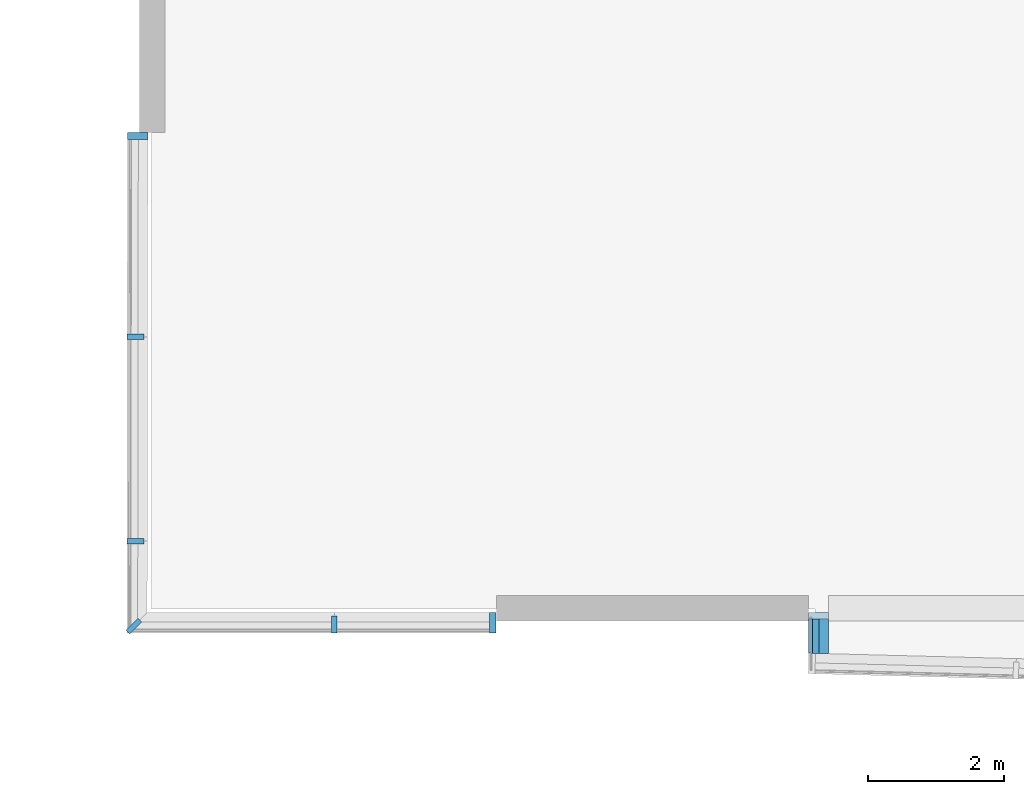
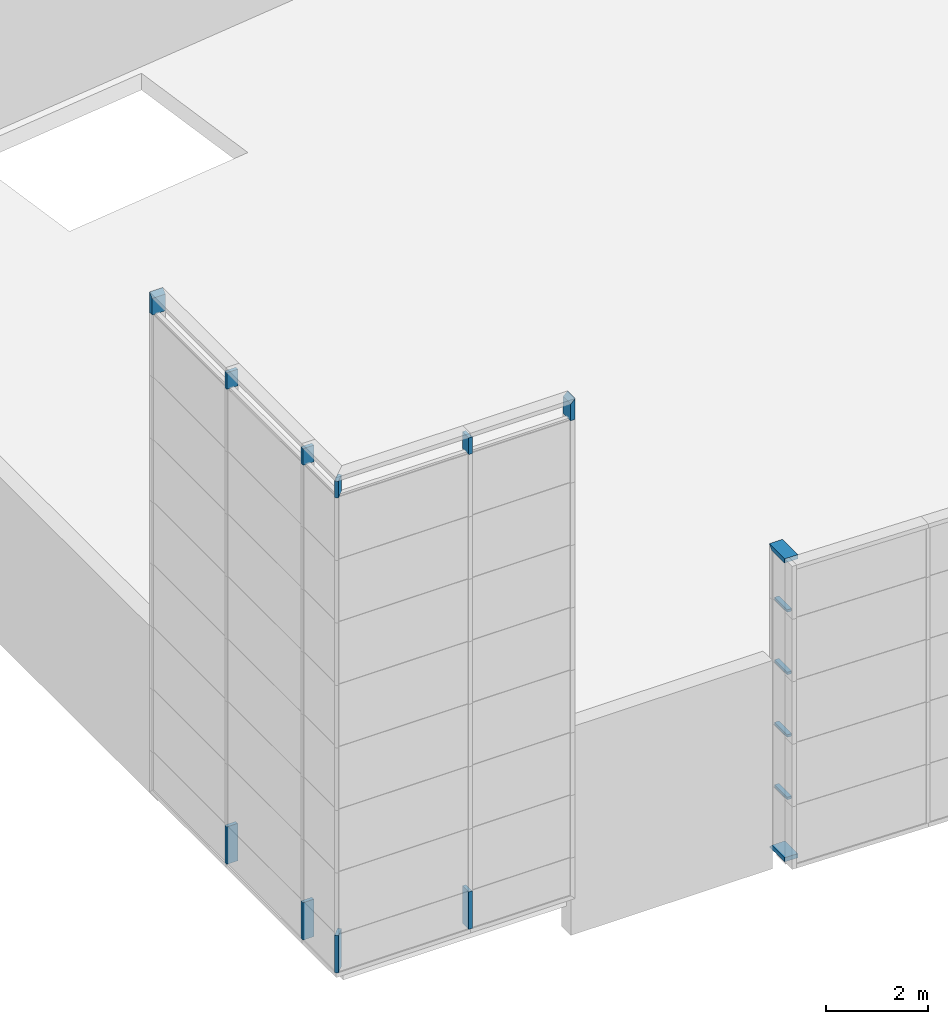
# One storey, part 12 of 27: 16 members, 2 elements without a shape of their own.
"""IFC2X3 building model written with IfcOpenShell, lengths in metres."""

from ifc_helpers import new_model, entity, si_unit, converted_unit, money_unit, direction, frame, origin_with_axes, place, context, subcontext, project, spatial, polyline, outline, extrude, clip, halfspace, material, type_object, element, aggregate, save


model = new_model("IFC2X3")

# Units and contexts
model_context = context("Model", 3, precision=1e-05, world=origin_with_axes(), true_north=direction((0.0, 1.0)))
body_context = subcontext(model_context, "Body", "Model", "MODEL_VIEW")
ifc_project = project(units=[si_unit("LENGTHUNIT", "METRE"), si_unit("AREAUNIT", "SQUARE_METRE"), si_unit("VOLUMEUNIT", "CUBIC_METRE"), converted_unit("PLANEANGLEUNIT", "DEGREE", entity("IfcPlaneAngleMeasure", 0.0174532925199), si_unit("PLANEANGLEUNIT", "RADIAN"), dimensions=[0, 0, 0, 0, 0, 0, 0]), si_unit("SOLIDANGLEUNIT", "STERADIAN"), money_unit("EUR"), converted_unit("TIMEUNIT", "Year", entity("IfcTimeMeasure", 31556926.0), si_unit("TIMEUNIT", "SECOND"), dimensions=[0, 0, 0, 0, 0, 0, 0]), si_unit("MASSUNIT", "GRAM"), si_unit("THERMODYNAMICTEMPERATUREUNIT", "DEGREE_CELSIUS"), si_unit("LUMINOUSINTENSITYUNIT", "LUMEN")], contexts=[model_context])

# Site, building, storey
site_placement = place(None, origin_with_axes())
site = spatial("IfcSite", under=ifc_project, at=site_placement, Name="Undefined", CompositionType="ELEMENT")
building_placement = place(site_placement, origin_with_axes())
building = spatial("IfcBuilding", under=site, at=building_placement, Name="Undefined", CompositionType="ELEMENT")
storey_placement = place(building_placement, frame((0.0, 0.0, 5.4), z_axis=(0.0, 0.0, 1.0), x_axis=(1.0, 0.0, 0.0)))
storey = spatial("IfcBuildingStorey", under=building, at=storey_placement, Name="R+1", CompositionType="ELEMENT", Elevation=5.4)

# Curtain wall, members
curtain_wall_type = type_object("IfcCurtainWallType", Name="Type de mur-rideau", PredefinedType="NOTDEFINED")
curtain_wall_1_placement = place(storey_placement, frame((9.49999998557, -0.66969262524, -0.55), z_axis=(0.0, 0.0, 1.0), x_axis=(1.0, 0.0, 0.0)))
curtain_wall_1 = element("IfcCurtainWall", 1, at=curtain_wall_1_placement, inside=storey, type_object=curtain_wall_type, Name="CurtainWall_01", ObjectType="CURTAIN WALL")
ifc_material = material(Name="25 % 359672764")
member_type_1 = type_object("IfcMemberType", Name="Cadre 100 x 300", PredefinedType="NOTDEFINED")
member_1_placement = place(curtain_wall_1_placement, frame((1.44304870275e-08, 0.426115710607, 0.0), z_axis=(-3.3865186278e-08, -1.0, 0.0), x_axis=(0.0, 0.0, 1.0)))
member_1 = element("IfcMember", 2, at=member_1_placement, type_object=member_type_1, material=ifc_material, Name="Frame-Bnd-802", context=body_context, shape_type="Clipping", body=[
    clip(clip(extrude(outline(polyline([(-0.25, -0.1), (0.05, -0.1), (0.05, 0.0), (-0.25, 0.0), (-0.25, -0.1)])), frame((0.0, 0.0, 0.0), z_axis=(0.0, 0.0, 1.0), x_axis=(0.0, 1.0, 0.0)), (0.0, 0.0, 1.0), 0.60865442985), halfspace(frame((0.0, 0.0, 0.0), z_axis=(-0.707106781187, 0.0, 0.707106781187), x_axis=(0.0, -1.0, 0.0)), True)), halfspace(frame((0.0, 0.0156637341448, 0.601738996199), z_axis=(0.0, -0.0260219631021, -0.999661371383), x_axis=(0.0, 0.999661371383, -0.0260219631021)), True)),
])
member_2_placement = place(curtain_wall_1_placement, frame((-1.44304870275e-08, -0.426115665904, 7.27482766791), z_axis=(3.38651859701e-08, 1.0, 0.0), x_axis=(0.0, 0.0, -1.0)))
member_2 = element("IfcMember", 3, at=member_2_placement, type_object=member_type_1, material=ifc_material, Name="Frame-Bnd-880", context=body_context, shape_type="Clipping", body=[
    clip(clip(extrude(outline(polyline([(0.25, 0.1), (-0.05, 0.1), (-0.05, 0.0), (0.25, 0.0), (0.25, 0.1)])), frame((0.0, 0.0, 0.243576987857), z_axis=(0.0, 0.0, 1.0), x_axis=(0.0, -1.0, 0.0)), (0.0, 0.0, 1.0), 0.608654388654), halfspace(frame((8.76361360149e-09, -0.00650549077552, 0.249915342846), z_axis=(3.5054454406e-08, -0.0260219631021, 0.999661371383), x_axis=(0.0, -0.999661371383, -0.0260219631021)), True)), halfspace(frame((0.426115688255, 0.0, 0.426115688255), z_axis=(-0.707106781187, 0.0, -0.707106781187), x_axis=(0.0, 1.0, 0.0)), True)),
])

curtain_wall_2_placement = place(storey_placement, frame((-0.508840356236, 0.150119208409, 0.0), z_axis=(0.0, 0.0, 1.0), x_axis=(1.0, 0.0, 0.0)))
curtain_wall_2 = element("IfcCurtainWall", 4, at=curtain_wall_2_placement, inside=storey, type_object=curtain_wall_type, Name="CurtainWall_01", ObjectType="CURTAIN WALL")
member_3_placement = place(curtain_wall_2_placement, frame((0.00884103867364, 6.65011390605, 11.5000000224), z_axis=(0.0, 0.0, 1.0), x_axis=(0.00132945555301, 0.999999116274, 0.0)))
member_3 = element("IfcMember", 5, at=member_3_placement, type_object=member_type_1, material=ifc_material, Name="Frame-Bnd-727", context=body_context, shape_type="Clipping", body=[
    clip(extrude(outline(polyline([(0.249999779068, -0.000332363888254), (-0.0499999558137, 6.64727776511e-05), (-0.050132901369, -0.0999334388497), (0.249866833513, -0.100332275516), (0.249999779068, -0.000332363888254)])), frame((0.0, 0.0, 0.0), z_axis=(0.0, 0.0, 1.0), x_axis=(0.00132945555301, -0.999999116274, 0.0)), (0.0, 0.0, 1.0), 0.500000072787), halfspace(frame((-0.250000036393, 0.0, 0.250000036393), z_axis=(0.707106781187, 0.0, -0.707106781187), x_axis=(0.0, 1.0, 0.0)), True)),
])
member_4_placement = place(curtain_wall_2_placement, frame((5.37446819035, -0.650119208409, 11.5000000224), z_axis=(-2.36412881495e-08, 0.0, 1.0), x_axis=(-1.0, 0.0, -2.36412881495e-08)))
member_4 = element("IfcMember", 6, at=member_4_placement, type_object=member_type_1, material=ifc_material, Name="Frame-Bnd-987", context=body_context, shape_type="Clipping", body=[
    clip(extrude(outline(polyline([(-0.1, 0.25), (-0.1, -0.05), (0.0, -0.05), (0.0, 0.25), (-0.1, 0.25)])), frame((0.0, 0.0, 0.0), z_axis=(0.0, 0.0, 1.0), x_axis=(-1.0, 0.0, -2.36412881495e-08)), (0.0, 0.0, 1.0), 0.500000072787), halfspace(frame((0.250000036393, 0.0, 0.250000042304), z_axis=(-0.707106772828, 0.0, -0.707106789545), x_axis=(0.0, 1.0, 0.0)), True)),
])
member_type_2 = type_object("IfcMemberType", Name="Montant 80 x 250", PredefinedType="NOTDEFINED")
member_5_placement = place(curtain_wall_2_placement, frame((0.00485267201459, 3.65011655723, 11.5000000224), z_axis=(0.0, 0.0, 1.0), x_axis=(0.00132945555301, 0.999999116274, 0.0)))
member_5 = element("IfcMember", 7, at=member_5_placement, type_object=member_type_2, material=ifc_material, Name="Frame-Mll-289", context=body_context, shape_type="SweptSolid", body=[
    extrude(outline(polyline([(0.200053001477, 0.0397340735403), (-0.0499467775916, 0.0400664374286), (-0.0500531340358, -0.0399334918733), (0.199946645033, -0.0402658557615), (0.200053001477, 0.0397340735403)])), frame((0.0, 0.0, 0.0), z_axis=(0.0, 0.0, 1.0), x_axis=(0.00132945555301, -0.999999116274, 0.0)), (0.0, 0.0, 1.0), 0.400000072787),
])
member_6_placement = place(curtain_wall_2_placement, frame((0.00086430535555, 0.650119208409, 0.0), z_axis=(0.0, 0.0, 1.0), x_axis=(0.00132945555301, 0.999999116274, 0.0)))
member_6 = element("IfcMember", 8, at=member_6_placement, type_object=member_type_2, material=ifc_material, Name="Frame-Mll-132", context=body_context, shape_type="SweptSolid", body=[
    extrude(outline(polyline([(0.200053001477, 0.0397340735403), (-0.0499467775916, 0.0400664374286), (-0.0500531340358, -0.0399334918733), (0.199946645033, -0.0402658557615), (0.200053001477, 0.0397340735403)])), frame((0.0, 0.0, 0.1), z_axis=(0.0, 0.0, 1.0), x_axis=(0.00132945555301, -0.999999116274, 0.0)), (0.0, 0.0, 1.0), 0.900000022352),
])
member_7_placement = place(curtain_wall_2_placement, frame((-0.00086430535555, -0.650119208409, 0.0), z_axis=(0.0, 0.0, 1.0), x_axis=(-0.706636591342, 0.707576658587, 0.0)))
member_7 = element("IfcMember", 9, at=member_7_placement, type_object=member_type_2, material=ifc_material, Name="Frame-Mll-361", context=body_context, shape_type="SweptSolid", body=[
    extrude(outline(polyline([(0.113249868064, 0.169630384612), (-0.063644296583, -0.00702876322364), (-0.00711336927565, -0.0636348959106), (0.169780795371, 0.113024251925), (0.113249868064, 0.169630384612)])), frame((0.0, 0.0, 0.1), z_axis=(0.0, 0.0, 1.0), x_axis=(-0.706636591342, -0.707576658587, 0.0)), (0.0, 0.0, 1.0), 0.900000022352),
])
member_8_placement = place(curtain_wall_2_placement, frame((2.99946827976, -0.650119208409, 0.0), z_axis=(0.0, 0.0, 1.0), x_axis=(-1.0, 0.0, 0.0)))
member_8 = element("IfcMember", 10, at=member_8_placement, type_object=member_type_2, material=ifc_material, Name="Frame-Mll-145", context=body_context, shape_type="SweptSolid", body=[
    extrude(outline(polyline([(-0.04, 0.2), (-0.04, -0.05), (0.04, -0.05), (0.04, 0.2), (-0.04, 0.2)])), frame((0.0, 0.0, 0.1), z_axis=(0.0, 0.0, 1.0), x_axis=(-1.0, 0.0, 0.0)), (0.0, 0.0, 1.0), 0.900000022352),
])
member_9_placement = place(curtain_wall_2_placement, frame((0.00086430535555, 0.650119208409, 11.5000000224), z_axis=(0.0, 0.0, 1.0), x_axis=(0.00132945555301, 0.999999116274, 0.0)))
member_9 = element("IfcMember", 11, at=member_9_placement, type_object=member_type_2, material=ifc_material, Name="Frame-Mll-290", context=body_context, shape_type="SweptSolid", body=[
    extrude(outline(polyline([(0.200053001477, 0.0397340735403), (-0.0499467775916, 0.0400664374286), (-0.0500531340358, -0.0399334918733), (0.199946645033, -0.0402658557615), (0.200053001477, 0.0397340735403)])), frame((0.0, 0.0, 0.0), z_axis=(0.0, 0.0, 1.0), x_axis=(0.00132945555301, -0.999999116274, 0.0)), (0.0, 0.0, 1.0), 0.400000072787),
])
member_10_placement = place(curtain_wall_2_placement, frame((2.99946827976, -0.650119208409, 11.5000000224), z_axis=(0.0, 0.0, 1.0), x_axis=(-1.0, 0.0, 0.0)))
member_10 = element("IfcMember", 12, at=member_10_placement, type_object=member_type_2, material=ifc_material, Name="Frame-Mll-320", context=body_context, shape_type="SweptSolid", body=[
    extrude(outline(polyline([(-0.04, 0.2), (-0.04, -0.05), (0.04, -0.05), (0.04, 0.2), (-0.04, 0.2)])), frame((0.0, 0.0, 0.0), z_axis=(0.0, 0.0, 1.0), x_axis=(-1.0, 0.0, 0.0)), (0.0, 0.0, 1.0), 0.400000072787),
])
member_11_placement = place(curtain_wall_2_placement, frame((-0.00086430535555, -0.650119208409, 11.5000000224), z_axis=(0.0, 0.0, 1.0), x_axis=(-0.706636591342, 0.707576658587, 0.0)))
member_11 = element("IfcMember", 13, at=member_11_placement, type_object=member_type_2, material=ifc_material, Name="Frame-Mll-361", context=body_context, shape_type="SweptSolid", body=[
    extrude(outline(polyline([(0.113249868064, 0.169630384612), (-0.063644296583, -0.00702876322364), (-0.00711336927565, -0.0636348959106), (0.169780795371, 0.113024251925), (0.113249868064, 0.169630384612)])), frame((0.0, 0.0, 0.0), z_axis=(0.0, 0.0, 1.0), x_axis=(-0.706636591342, -0.707576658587, 0.0)), (0.0, 0.0, 1.0), 0.400000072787),
])
member_12_placement = place(curtain_wall_2_placement, frame((0.00485267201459, 3.65011655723, 0.0), z_axis=(0.0, 0.0, 1.0), x_axis=(0.00132945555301, 0.999999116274, 0.0)))
member_12 = element("IfcMember", 14, at=member_12_placement, type_object=member_type_2, material=ifc_material, Name="Frame-Mll-131", context=body_context, shape_type="SweptSolid", body=[
    extrude(outline(polyline([(0.200053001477, 0.0397340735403), (-0.0499467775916, 0.0400664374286), (-0.0500531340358, -0.0399334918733), (0.199946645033, -0.0402658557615), (0.200053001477, 0.0397340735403)])), frame((0.0, 0.0, 0.1), z_axis=(0.0, 0.0, 1.0), x_axis=(0.00132945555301, -0.999999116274, 0.0)), (0.0, 0.0, 1.0), 0.900000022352),
])
aggregate(curtain_wall_2, [member_3, member_5, member_6, member_7, member_8, member_9, member_10, member_11, member_12, member_4])

# Member
member_type_3 = type_object("IfcMemberType", Name="Traverse 60 x 100", PredefinedType="NOTDEFINED")
member_13_placement = place(curtain_wall_1_placement, frame((1.44304870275e-08, 0.426115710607, 6.0), z_axis=(-3.3865186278e-08, -1.0, 0.0), x_axis=(0.0, 0.0, 1.0)))
member_13 = element("IfcMember", 15, at=member_13_placement, type_object=member_type_3, material=ifc_material, Name="Frame-Trs-571", context=body_context, shape_type="Clipping", body=[
    clip(extrude(outline(polyline([(-0.11, -0.03), (-0.01, -0.03), (-0.01, 0.03), (-0.11, 0.03), (-0.11, -0.03)])), frame((0.0, 0.0, 0.1), z_axis=(0.0, 0.0, 1.0), x_axis=(0.0, 1.0, 0.0)), (0.0, 0.0, 1.0), 0.505010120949), halfspace(frame((0.0, 0.0156637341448, 0.601738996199), z_axis=(0.0, -0.0260219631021, -0.999661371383), x_axis=(0.0, 0.999661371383, -0.0260219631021)), True)),
])

member_14_placement = place(curtain_wall_1_placement, frame((1.44304870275e-08, 0.426115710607, 4.5), z_axis=(-3.3865186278e-08, -1.0, 0.0), x_axis=(0.0, 0.0, 1.0)))
member_14 = element("IfcMember", 16, at=member_14_placement, type_object=member_type_3, material=ifc_material, Name="Frame-Trs-571", context=body_context, shape_type="Clipping", body=[
    clip(extrude(outline(polyline([(-0.11, -0.03), (-0.01, -0.03), (-0.01, 0.03), (-0.11, 0.03), (-0.11, -0.03)])), frame((0.0, 0.0, 0.1), z_axis=(0.0, 0.0, 1.0), x_axis=(0.0, 1.0, 0.0)), (0.0, 0.0, 1.0), 0.505010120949), halfspace(frame((0.0, 0.0156637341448, 0.601738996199), z_axis=(0.0, -0.0260219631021, -0.999661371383), x_axis=(0.0, 0.999661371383, -0.0260219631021)), True)),
])

member_15_placement = place(curtain_wall_1_placement, frame((1.44304870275e-08, 0.426115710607, 3.0), z_axis=(-3.3865186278e-08, -1.0, 0.0), x_axis=(0.0, 0.0, 1.0)))
member_15 = element("IfcMember", 17, at=member_15_placement, type_object=member_type_3, material=ifc_material, Name="Frame-Trs-571", context=body_context, shape_type="Clipping", body=[
    clip(extrude(outline(polyline([(-0.11, -0.03), (-0.01, -0.03), (-0.01, 0.03), (-0.11, 0.03), (-0.11, -0.03)])), frame((0.0, 0.0, 0.1), z_axis=(0.0, 0.0, 1.0), x_axis=(0.0, 1.0, 0.0)), (0.0, 0.0, 1.0), 0.505010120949), halfspace(frame((0.0, 0.0156637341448, 0.601738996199), z_axis=(0.0, -0.0260219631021, -0.999661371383), x_axis=(0.0, 0.999661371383, -0.0260219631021)), True)),
])

member_16_placement = place(curtain_wall_1_placement, frame((1.44304870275e-08, 0.426115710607, 1.5), z_axis=(-3.3865186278e-08, -1.0, 0.0), x_axis=(0.0, 0.0, 1.0)))
member_16 = element("IfcMember", 18, at=member_16_placement, type_object=member_type_3, material=ifc_material, Name="Frame-Trs-571", context=body_context, shape_type="Clipping", body=[
    clip(extrude(outline(polyline([(-0.11, -0.03), (-0.01, -0.03), (-0.01, 0.03), (-0.11, 0.03), (-0.11, -0.03)])), frame((0.0, 0.0, 0.1), z_axis=(0.0, 0.0, 1.0), x_axis=(0.0, 1.0, 0.0)), (0.0, 0.0, 1.0), 0.505010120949), halfspace(frame((0.0, 0.0156637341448, 0.601738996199), z_axis=(0.0, -0.0260219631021, -0.999661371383), x_axis=(0.0, 0.999661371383, -0.0260219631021)), True)),
])

aggregate(curtain_wall_1, [member_13, member_14, member_15, member_16, member_1, member_2])

save(model, "model.ifc")
